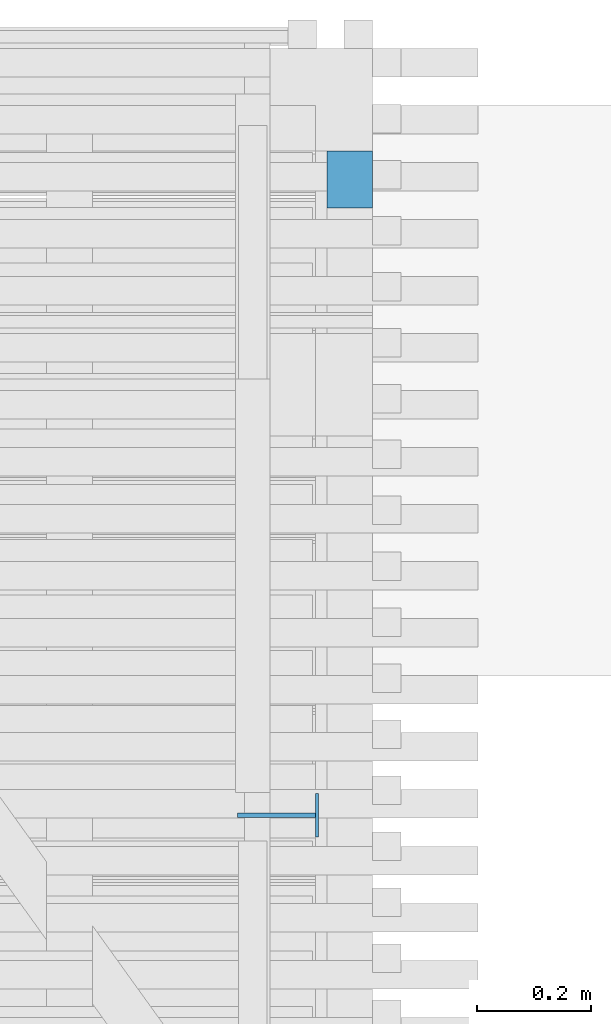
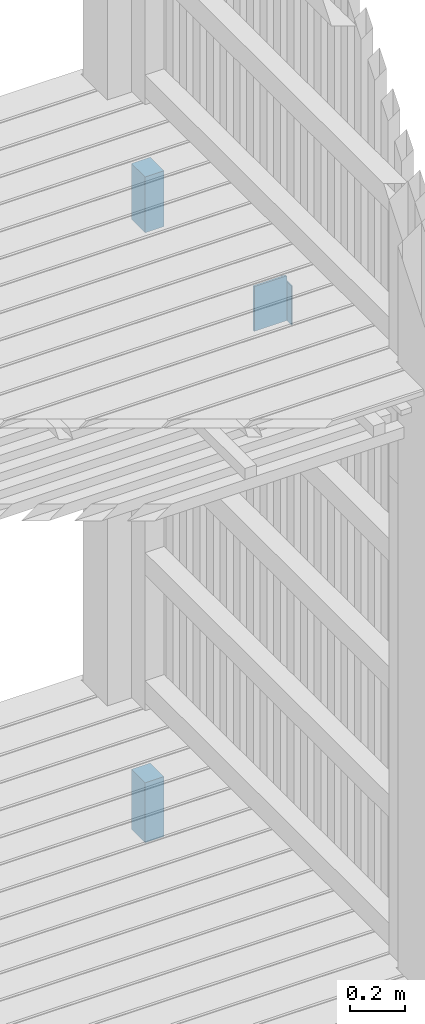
# One storey, part 170 of 182: 3 beams.
"""IFC2X3 building model written with IfcOpenShell, lengths in metres."""

import ifcopenshell
import ifcopenshell.guid

model = None  # the IFC model being written
_history = None  # IfcOwnerHistory: only IFC2X3 demands one
_inside = {}  # id of a spatial element -> (the spatial element, [elements in it])
_under = {}  # id of a project, library or spatial element -> (it, [spatial elements below it])
_declared = {}  # id of a project -> (the project, [libraries it declares])
_typed = {}  # id of a type object -> (the type object, [elements of that type])
_made_of = {}  # id of a material, layer set ... -> (it, [elements and type objects made of it])


def new_model(schema):
    """Start an empty IFC model of exactly this schema.

    Asked for "IFC4X3", IfcOpenShell would pick the latest addendum, in which some entities
    have other attributes; the version numbers below select the first issue.
    IFC2X3 requires an IfcOwnerHistory on every rooted entity: one is made here for all.
    """
    global model, _history
    if schema == "IFC4X3":
        model = ifcopenshell.file(schema_version=(4, 3, 0, 0))
    else:
        model = ifcopenshell.file(schema=schema)
    _inside.clear()
    _under.clear()
    _declared.clear()
    _typed.clear()
    _made_of.clear()
    _history = None
    if model.schema == "IFC2X3":
        org = make("IfcOrganization", Name="unknown")
        user = make(
            "IfcPersonAndOrganization",
            ThePerson=make("IfcPerson", FamilyName="unknown"),
            TheOrganization=org,
        )
        app = make(
            "IfcApplication",
            ApplicationDeveloper=org,
            Version="unknown",
            ApplicationFullName="unknown",
            ApplicationIdentifier="unknown",
        )
        _history = make(
            "IfcOwnerHistory",
            OwningUser=user,
            OwningApplication=app,
            ChangeAction="ADDED",
            CreationDate=0,
        )
    return model


def make(cls, **values):
    """One entity of the class cls with the attributes given. An attribute that is None is left unset."""
    return model.create_entity(
        cls, **{name: value for name, value in values.items() if value is not None}
    )


def rooted(cls, **values):
    """An entity with a GlobalId (a new one), such as an element, a storey or a relation."""
    return make(cls, GlobalId=ifcopenshell.guid.new(), OwnerHistory=_history, **values)


def si_unit(unit_type, name, prefix=None):
    """IfcSIUnit, for example si_unit("LENGTHUNIT", "METRE", prefix="MILLI")."""
    return make("IfcSIUnit", UnitType=unit_type, Prefix=prefix, Name=name)


def assignment(units):
    """IfcUnitAssignment: the units of a project."""
    return None if units is None else make("IfcUnitAssignment", Units=units)


def point(xyz):
    """IfcCartesianPoint."""
    return None if xyz is None else make("IfcCartesianPoint", Coordinates=xyz)


def direction(xyz):
    """IfcDirection."""
    return None if xyz is None else make("IfcDirection", DirectionRatios=xyz)


def frame(location, z_axis=None, x_axis=None):
    """IfcAxis2Placement3D, a coordinate frame: its origin and axes. An axis left out is left unset."""
    return make(
        "IfcAxis2Placement3D",
        Location=point(location),
        Axis=direction(z_axis),
        RefDirection=direction(x_axis),
    )


def origin():
    """The frame at (0, 0, 0) with its axes left unset."""
    return frame((0.0, 0.0, 0.0))


def place(relative_to, where):
    """IfcLocalPlacement: puts the frame where relative to a parent placement (None: the world)."""
    return make(
        "IfcLocalPlacement", PlacementRelTo=relative_to, RelativePlacement=where
    )


def context(
    kind, dimensions, precision=None, world=None, true_north=None, identifier=None
):
    """IfcGeometricRepresentationContext, for example the 3D "Model" context."""
    return make(
        "IfcGeometricRepresentationContext",
        ContextIdentifier=identifier,
        ContextType=kind,
        CoordinateSpaceDimension=dimensions,
        Precision=precision,
        WorldCoordinateSystem=world,
        TrueNorth=true_north,
    )


def project(units=None, contexts=None):
    """IfcProject with its units and contexts."""
    return rooted(
        "IfcProject",
        Name="project",
        RepresentationContexts=contexts,
        UnitsInContext=assignment(units),
    )


def spatial(cls, under=None, at=None, **own):
    """A site, building, storey or space (cls), placed at a placement, below another one or the project."""
    s = rooted(cls, ObjectPlacement=at, **own)
    if under is not None:
        _under.setdefault(under.id(), (under, []))[1].append(s)
    return s


def faces_of(points, faces, orient=None, outer=None):
    """IfcFace entities. A face is a list of loops; a loop is a list of indices into points, from 0.

    orient and outer hold one flag for each loop. By default every Orientation is true, the
    first loop of a face is its IfcFaceOuterBound and the others are IfcFaceBound.
    """
    made = []
    for i, loops in enumerate(faces):
        bounds = []
        for j, loop in enumerate(loops):
            is_outer = j == 0 if outer is None else outer[i][j]
            bounds.append(
                make(
                    "IfcFaceOuterBound" if is_outer else "IfcFaceBound",
                    Bound=make("IfcPolyLoop", Polygon=[points[k] for k in loop]),
                    Orientation=True if orient is None else orient[i][j],
                )
            )
        made.append(make("IfcFace", Bounds=bounds))
    return made


def faceted_brep(points, faces, orient=None, outer=None, voids=None):
    """IfcFacetedBrep: a solid bounded by flat faces; with voids (closed shells), ...WithVoids."""
    shared = [point(p) for p in points]
    hull = make("IfcClosedShell", CfsFaces=faces_of(shared, faces, orient, outer))
    if voids is None:
        return make("IfcFacetedBrep", Outer=hull)
    return make(
        "IfcFacetedBrepWithVoids",
        Outer=hull,
        Voids=[
            make(cls, CfsFaces=faces_of(shared, fs, o, b)) for cls, fs, o, b in voids
        ],
    )


def shape(context_of_items, identifier, shape_type, items):
    """IfcShapeRepresentation: the items that make up one representation, for example the "Body"."""
    return make(
        "IfcShapeRepresentation",
        ContextOfItems=context_of_items,
        RepresentationIdentifier=identifier,
        RepresentationType=shape_type,
        Items=items,
    )


def made_of(thing, what):
    """Note that an element or type object is made of a material, layer set ...; save() writes the relation."""
    if what is not None:
        _made_of.setdefault(what.id(), (what, []))[1].append(thing)
    return thing


def element(
    cls,
    number,
    at=None,
    inside=None,
    cuts=None,
    type_object=None,
    material=None,
    context=None,
    identifier="Body",
    shape_type=None,
    held_by="IfcProductDefinitionShape",
    body=None,
    shapes=None,
    **own,
):
    """One element of the class cls, such as IfcWall. Its Tag is "e" and its number.

    at: its placement. inside: the storey or other place that contains it. cuts: it is an
    opening in that element (IfcRelVoidsElement). A single representation is given by context,
    identifier, shape_type and body (its items); several are given by shapes. held_by: the class
    of the entity that holds the representations. save() writes the other relations.
    """
    e = rooted(cls, Tag="e%d" % number, ObjectPlacement=at, **own)
    if body is not None:
        shapes = [shape(context, identifier, shape_type, body)]
    if shapes is not None:
        e.Representation = make(held_by, Representations=shapes)
    if inside is not None:
        _inside.setdefault(inside.id(), (inside, []))[1].append(e)
    if cuts is not None:
        rooted(
            "IfcRelVoidsElement", RelatingBuildingElement=cuts, RelatedOpeningElement=e
        )
    if type_object is not None:
        _typed.setdefault(type_object.id(), (type_object, []))[1].append(e)
    return made_of(e, material)


def aggregate(whole, parts):
    """IfcRelAggregates: a whole, such as a stair, and the parts it consists of."""
    return rooted("IfcRelAggregates", RelatingObject=whole, RelatedObjects=parts)


def save(model, path):
    """Write the relations noted so far, then the file.

    IfcRelAggregates (storeys below a building ...), IfcRelContainedInSpatialStructure (elements
    in a storey), IfcRelDefinesByType, IfcRelAssociatesMaterial and IfcRelDeclares: one each for
    every whole, place, type object, material and project.
    """
    for whole, parts in _under.values():
        aggregate(whole, parts)
    for where, things in _inside.values():
        rooted(
            "IfcRelContainedInSpatialStructure",
            RelatedElements=things,
            RelatingStructure=where,
        )
    for kind, things in _typed.values():
        rooted("IfcRelDefinesByType", RelatedObjects=things, RelatingType=kind)
    for what, things in _made_of.values():
        rooted("IfcRelAssociatesMaterial", RelatedObjects=things, RelatingMaterial=what)
    for by, libraries in _declared.values():
        rooted("IfcRelDeclares", RelatingContext=by, RelatedDefinitions=libraries)
    model.write(path)


model = new_model("IFC2X3")

# Units and contexts
model_context = context("Model", 3, precision=1e-06, world=origin())
ifc_project = project(units=[si_unit("LENGTHUNIT", "METRE"), si_unit("PLANEANGLEUNIT", "RADIAN")], contexts=[model_context])

# Site, building, storey
site = spatial("IfcSite", under=ifc_project, CompositionType="ELEMENT")
building = spatial("IfcBuilding", under=site, CompositionType="ELEMENT")
storey = spatial("IfcBuildingStorey", under=building, Name="vs", CompositionType="ELEMENT", Elevation=-0.85)

# Beams
placement = place(None, origin())
beam_1_placement = place(placement, frame((26.334999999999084, 12.640077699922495, 4.85796194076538), z_axis=(0.0, -1.0, 0.0), x_axis=(0.0, 0.0, 1.0)))
element("IfcBeam", 1, at=beam_1_placement, inside=storey, Name="Support bardage", context=model_context, shape_type="Brep", body=[
    faceted_brep([(0.267038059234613, -0.039999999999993, -0.05), (0.267038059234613, 0.04000000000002, -0.05), (0.267038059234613, 0.04000000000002, 0.050000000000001), (0.267038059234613, -0.039999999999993, 0.050000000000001), (0.267038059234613, -0.039999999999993, -0.05), (0.267038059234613, -0.039999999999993, 0.050000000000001), (0.0, -0.039999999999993, 0.050000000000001), (0.0, -0.039999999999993, -0.05), (0.267038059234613, 0.04000000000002, -0.05), (0.267038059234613, -0.039999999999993, -0.05), (0.0, -0.039999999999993, -0.05), (0.0, 0.04000000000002, -0.05), (0.0, -0.039999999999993, 0.050000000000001), (0.267038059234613, -0.039999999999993, 0.050000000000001), (0.267038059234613, 0.04000000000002, 0.050000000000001), (0.0, 0.04000000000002, 0.050000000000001), (0.0, 0.04000000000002, 0.050000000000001), (0.267038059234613, 0.04000000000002, 0.050000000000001), (0.267038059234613, 0.04000000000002, -0.05), (0.0, 0.04000000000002, -0.05), (0.0, -0.039999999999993, 0.050000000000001), (0.0, 0.04000000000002, 0.050000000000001), (0.0, 0.04000000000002, -0.05), (0.0, -0.039999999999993, -0.05)], [[[0, 1, 2, 3]], [[4, 5, 6, 7]], [[8, 9, 10, 11]], [[12, 13, 14, 15]], [[16, 17, 18, 19]], [[20, 21, 22, 23]]]),
])
beam_2_placement = place(placement, frame((26.334999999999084, 12.640077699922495, 7.576188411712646), z_axis=(0.0, -1.0, 0.0), x_axis=(0.0, 0.0, 1.0)))
element("IfcBeam", 2, at=beam_2_placement, inside=storey, Name="Support bardage", context=model_context, shape_type="Brep", body=[
    faceted_brep([(0.248811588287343, -0.039999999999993, -0.05), (0.248811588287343, 0.04000000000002, -0.05), (0.248811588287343, 0.04000000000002, 0.050000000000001), (0.248811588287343, -0.039999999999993, 0.050000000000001), (0.248811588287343, -0.039999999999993, -0.05), (0.248811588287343, -0.039999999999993, 0.050000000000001), (0.0, -0.039999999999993, 0.050000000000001), (0.0, -0.039999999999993, -0.05), (0.0, -0.039999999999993, 0.050000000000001), (0.248811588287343, -0.039999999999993, 0.050000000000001), (0.248811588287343, 0.04000000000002, 0.050000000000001), (0.0, 0.04000000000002, 0.050000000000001), (0.0, 0.04000000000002, 0.050000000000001), (0.248811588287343, 0.04000000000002, 0.050000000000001), (0.248811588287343, 0.04000000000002, -0.05), (0.0, 0.04000000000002, -0.05), (0.0, 0.04000000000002, -0.05), (0.248811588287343, 0.04000000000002, -0.05), (0.248811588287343, -0.039999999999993, -0.05), (0.0, -0.039999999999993, -0.05), (0.0, 0.04000000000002, 0.050000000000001), (0.0, 0.04000000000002, -0.05), (0.0, -0.039999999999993, -0.05), (0.0, -0.039999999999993, 0.050000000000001)], [[[0, 1, 2, 3]], [[4, 5, 6, 7]], [[8, 9, 10, 11]], [[12, 13, 14, 15]], [[16, 17, 18, 19]], [[20, 21, 22, 23]]]),
])
beam_3_placement = place(placement, frame((26.208999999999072, 11.525077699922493, 7.839999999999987), z_axis=(-1.0, 0.0, 0.0), x_axis=(0.0, 0.0, 1.0)))
element("IfcBeam", 3, at=beam_3_placement, inside=storey, Name="Contre-usinage", context=model_context, shape_type="Brep", body=[
    faceted_brep([(0.200000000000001, 0.003999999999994, -0.065999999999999), (0.200000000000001, -0.004000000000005, -0.065999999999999), (0.175000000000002, -0.004000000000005, -0.065999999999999), (0.175000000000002, 0.003999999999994, -0.065999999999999), (2e-15, 0.003999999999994, -0.065999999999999), (0.175000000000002, 0.003999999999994, -0.065999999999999), (0.175000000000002, 0.037999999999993, -0.065999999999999), (2e-15, 0.037999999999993, -0.065999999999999), (2e-15, -0.038000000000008, -0.065999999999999), (0.175000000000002, -0.038000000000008, -0.065999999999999), (0.175000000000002, -0.004000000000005, -0.065999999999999), (2e-15, -0.004000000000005, -0.065999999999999), (2e-15, -0.004000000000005, 0.071000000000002), (2e-15, -0.004000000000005, -0.065999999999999), (0.175000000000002, -0.004000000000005, -0.065999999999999), (0.200000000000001, -0.004000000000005, -0.065999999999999), (0.200000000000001, -0.004000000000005, 0.071000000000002), (2e-15, 0.003999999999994, 0.071000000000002), (2e-15, -0.004000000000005, 0.071000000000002), (0.200000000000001, -0.004000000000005, 0.071000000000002), (0.200000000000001, 0.003999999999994, 0.071000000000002), (2e-15, 0.037999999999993, -0.071000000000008), (0.175000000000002, 0.037999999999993, -0.071000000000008), (0.175000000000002, -0.038000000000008, -0.071000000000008), (2e-15, -0.038000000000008, -0.071000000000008), (0.175000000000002, -0.038000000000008, -0.071000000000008), (0.175000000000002, 0.037999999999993, -0.071000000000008), (0.175000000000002, 0.037999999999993, -0.065999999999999), (0.175000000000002, 0.003999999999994, -0.065999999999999), (0.175000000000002, -0.004000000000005, -0.065999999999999), (0.175000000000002, -0.038000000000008, -0.065999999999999), (0.200000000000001, 0.003999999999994, -0.065999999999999), (0.175000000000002, 0.003999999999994, -0.065999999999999), (2e-15, 0.003999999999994, -0.065999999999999), (2e-15, 0.003999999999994, 0.071000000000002), (0.200000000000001, 0.003999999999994, 0.071000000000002), (0.200000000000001, 0.003999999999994, 0.071000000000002), (0.200000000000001, -0.004000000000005, 0.071000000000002), (0.200000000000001, -0.004000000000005, -0.065999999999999), (0.200000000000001, 0.003999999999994, -0.065999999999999), (2e-15, 0.037999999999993, -0.065999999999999), (0.175000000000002, 0.037999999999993, -0.065999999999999), (0.175000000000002, 0.037999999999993, -0.071000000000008), (2e-15, 0.037999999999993, -0.071000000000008), (2e-15, 0.037999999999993, -0.071000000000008), (2e-15, -0.038000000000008, -0.071000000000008), (2e-15, -0.038000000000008, -0.065999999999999), (2e-15, -0.004000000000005, -0.065999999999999), (2e-15, -0.004000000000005, 0.071000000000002), (2e-15, 0.003999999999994, 0.071000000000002), (2e-15, 0.003999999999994, -0.065999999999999), (2e-15, 0.037999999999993, -0.065999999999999), (2e-15, -0.038000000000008, -0.065999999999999), (2e-15, -0.038000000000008, -0.071000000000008), (0.175000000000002, -0.038000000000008, -0.071000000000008), (0.175000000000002, -0.038000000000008, -0.065999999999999)], [[[0, 1, 2, 3]], [[4, 5, 6, 7]], [[8, 9, 10, 11]], [[12, 13, 14, 15, 16]], [[17, 18, 19, 20]], [[21, 22, 23, 24]], [[25, 26, 27, 28, 29, 30]], [[31, 32, 33, 34, 35]], [[36, 37, 38, 39]], [[40, 41, 42, 43]], [[44, 45, 46, 47, 48, 49, 50, 51]], [[52, 53, 54, 55]]]),
])

save(model, "model.ifc")
